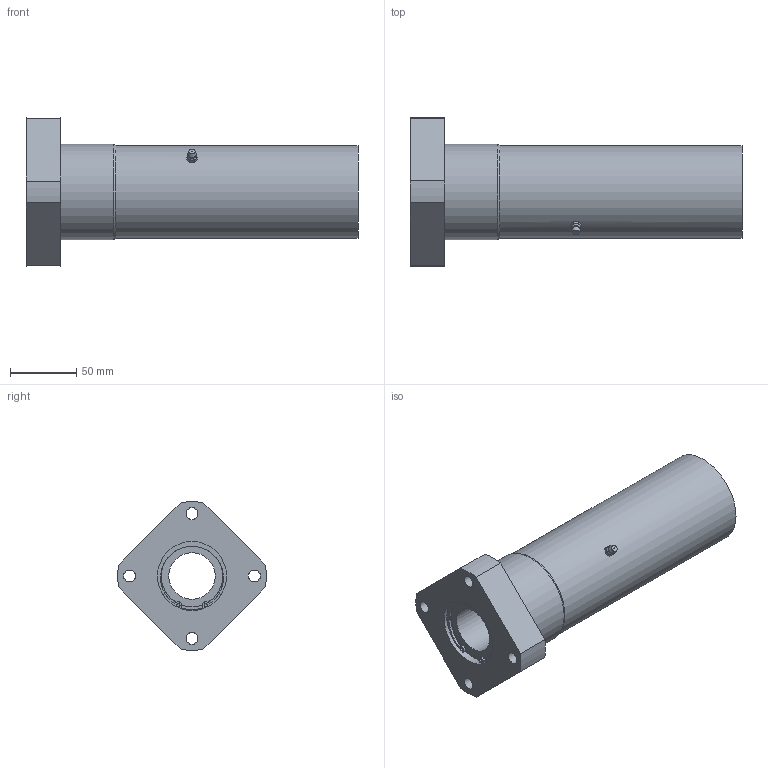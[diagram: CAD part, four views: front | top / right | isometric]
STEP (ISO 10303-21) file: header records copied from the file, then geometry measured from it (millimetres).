
FILE_DESCRIPTION((''),'2;1');
FILE_NAME('D:\製品 (図面)\カタログ用3D\リニアベアリング関連(改)\STEP形式\LFWL\LFWL35A.stp','2010-01-22T16:35:37',('Tsuchiya'),(''),'Autodesk Inventor 10','Autodesk Inventor 10','');
FILE_SCHEMA(('AUTOMOTIVE_DESIGN { 1 0 10303 214 1 1 1 1 }'));
Length unit declared in the file: millimetre
Products named in the file (1): LFWL35A
Bounding box: 250 x 111.86 x 111.86 mm (x, y, z)
Volume: 815982.2 mm3; surface area: 112572 mm2
Topology: 1 solids, 7 shells, 114 faces, 286 edges, 177 vertices
Faces by surface type: bspline 36, plane 35, cylinder 31, cone 8, sphere 2, torus 2
Full cylindrical faces by diameter (mm): 2.5 x2, 9 x4, 35 x2, 46.4 x2, 49 x2, 52 x8, 70 x1, 72 x1
Entity records: 3503 total; most frequent: CARTESIAN_POINT 999, DIRECTION 534, ORIENTED_EDGE 452, AXIS2_PLACEMENT_3D 241, EDGE_CURVE 226, EDGE_LOOP 188, VERTEX_POINT 158, CIRCLE 158
